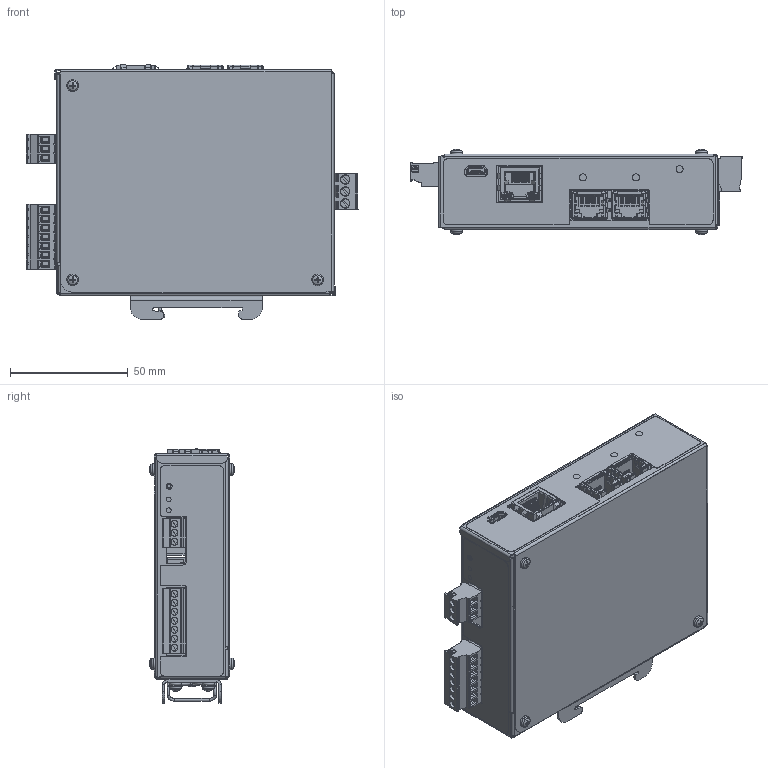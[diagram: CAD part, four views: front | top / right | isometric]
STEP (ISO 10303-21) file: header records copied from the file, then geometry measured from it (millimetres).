
FILE_DESCRIPTION(/* description */ (''),/* implementation_level */ '2;1');
FILE_NAME(/* name */ 'C:\Users\alves\OneDrive - ALFA INSTRUMENTOS ELETRONICOS LTDA\Área de Trabalho\ALVES\MARKETING\0645CX - TRANSMISSOR DE PESAGEM MOD. 2711-T.stp',/* time_stamp */ '2023-10-18T11:55:36-03:00',/* author */ ('alves'),/* organization */ (''),/* preprocessor_version */ 'ST-DEVELOPER v18.1',/* originating_system */ 'Autodesk Inventor 2022',/* authorisation */ '');
FILE_SCHEMA (('AUTOMOTIVE_DESIGN { 1 0 10303 214 3 1 1 }'));
Products named in the file (1): 0645CX - TRANSMISSOR DE PESAGEM MOD. 2711-T
Bounding box: 141.01 x 36.16 x 108.26 mm (x, y, z)
Volume: 8659.1 mm3; surface area: 93753.3 mm2
Topology: 6 solids, 801 shells, 4475 faces, 13836 edges, 10350 vertices
Faces by surface type: plane 2961, cylinder 901, bspline 333, cone 135, torus 98, sphere 47
Full cylindrical faces by diameter (mm): 0.434 x1, 0.457 x2, 0.6 x6, 0.609 x1, 0.8 x4, 1.2 x3, 1.4 x5, 1.5 x1, 1.6 x8, 2 x2, 2.256 x10, 2.5 x17, 2.7 x2, 2.8 x10, 2.9 x10, 3 x9, 3.013 x3, 3.2 x7, 3.783 x3, 4 x3, 6 x2
Entity records: 202499 total; most frequent: CARTESIAN_POINT 74902, DIRECTION 24782, ORIENTED_EDGE 23628, EDGE_CURVE 13798, VERTEX_POINT 10362, LINE 9680, VECTOR 9680, AXIS2_PLACEMENT_3D 7551
